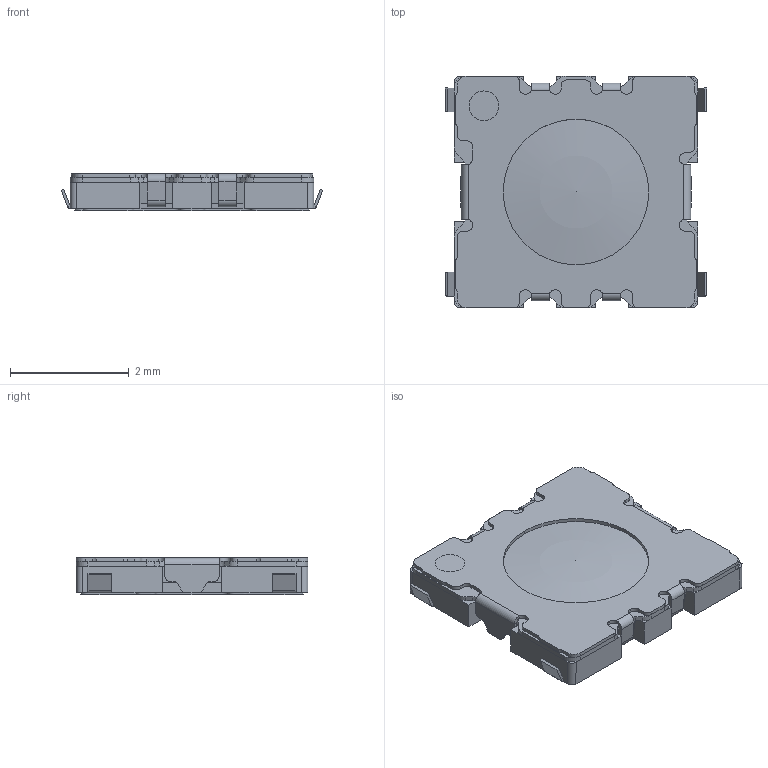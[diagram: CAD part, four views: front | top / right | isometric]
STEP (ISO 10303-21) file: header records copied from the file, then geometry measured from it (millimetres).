
FILE_DESCRIPTION (( 'STEP AP214' ), '1' );
FILE_NAME ('SKSDPC.STEP', '2009-07-06T02:25:29', ( '' ), ( '' ), 'SwSTEP 2.0', 'SolidWorks 2007', '' );
FILE_SCHEMA (( 'AUTOMOTIVE_DESIGN' ));
Length unit declared in the file: millimetre
Products named in the file (1): SKSDPC
Bounding box: 4.4 x 3.9 x 0.63 mm (x, y, z)
Volume: 9.1 mm3; surface area: 47.1 mm2
Topology: 1 solids, 1 shells, 450 faces, 1226 edges, 772 vertices
Faces by surface type: plane 286, cylinder 151, bspline 12, sphere 1
Entity records: 17710 total; most frequent: CARTESIAN_POINT 2840, ORIENTED_EDGE 2446, DIRECTION 2349, EDGE_CURVE 1223, VECTOR 847, LINE 847, VERTEX_POINT 770, AXIS2_PLACEMENT_3D 751
